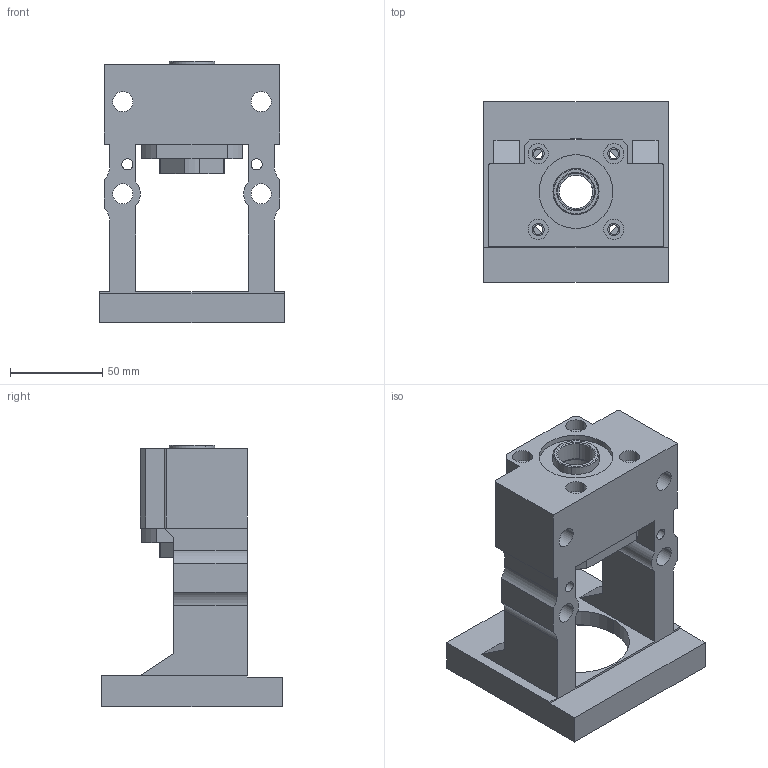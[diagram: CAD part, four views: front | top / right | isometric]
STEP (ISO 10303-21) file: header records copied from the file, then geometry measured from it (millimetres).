
FILE_DESCRIPTION((''),'2;1');
FILE_NAME('M90X--EK20-C_ASM','2019-12-30T',('ASUS'),(''),'PRO/ENGINEER BY PARAMETRIC TECHNOLOGY CORPORATION, 2010280','PRO/ENGINEER BY PARAMETRIC TECHNOLOGY CORPORATION, 2010280','');
FILE_SCHEMA(('CONFIG_CONTROL_DESIGN'));
Length unit declared in the file: millimetre
Products named in the file (5): PRT0003; MBCF20-X-02; PRT0004; _MBCF20-X; M90X--EK20-C_ASM
Assembly tree (5 placements, depth 2):
  M90X--EK20-C_ASM
    PRT0003  x2
    MBCF20-X-02
    PRT0004
    _MBCF20-X
Bounding box: 100 x 98 x 142 mm (x, y, z)
Volume: 382988.7 mm3; surface area: 92509 mm2
Topology: 5 solids, 5 shells, 197 faces, 511 edges, 335 vertices
Faces by surface type: cylinder 104, plane 69, cone 24
Entity records: 6037 total; most frequent: CARTESIAN_POINT 1113, DIRECTION 1072, ORIENTED_EDGE 950, EDGE_CURVE 475, AXIS2_PLACEMENT_3D 414, VERTEX_POINT 319, EDGE_LOOP 246, VECTOR 244
